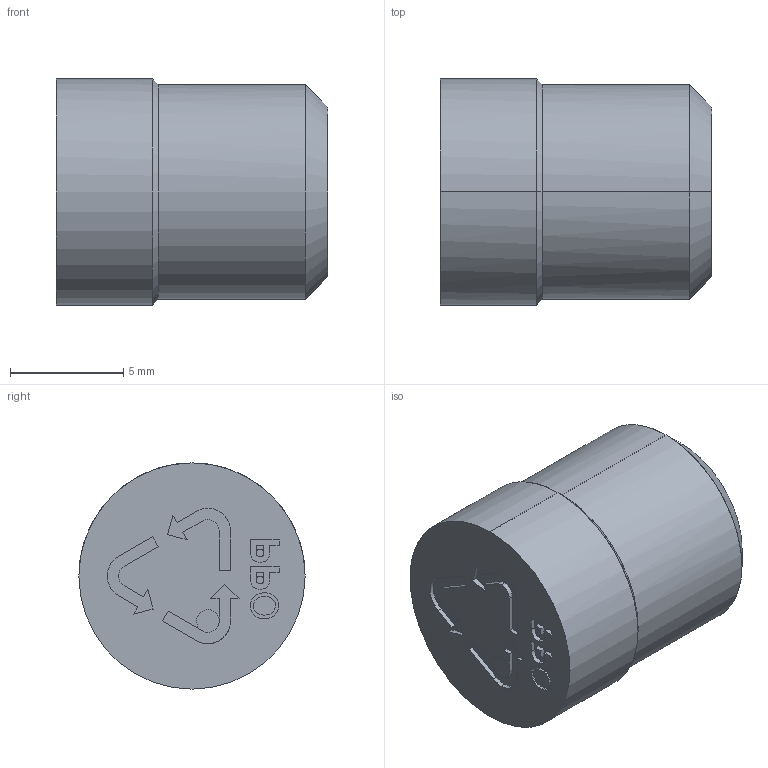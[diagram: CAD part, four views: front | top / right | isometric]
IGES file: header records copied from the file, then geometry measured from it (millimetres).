
Start section: START RECORD GO HERE.
Global section: file name: MPP010.igs; native system: DASSAULT SYSTEMES CATIA V5 R20 - www.3ds.com; preprocessor: CATIA Version 5 Release 20 ; author: Utente; organization: NB04-ASUS; date: 20210326.144342; units: millimetre
Bounding box: 12 x 10 x 10 mm (x, y, z)
Surface area: 575.9 mm2 (no closed solid volume)
Topology: 0 solids, 0 shells, 139 faces, 784 edges, 776 vertices
Faces by surface type: plane 107, revolution 32
